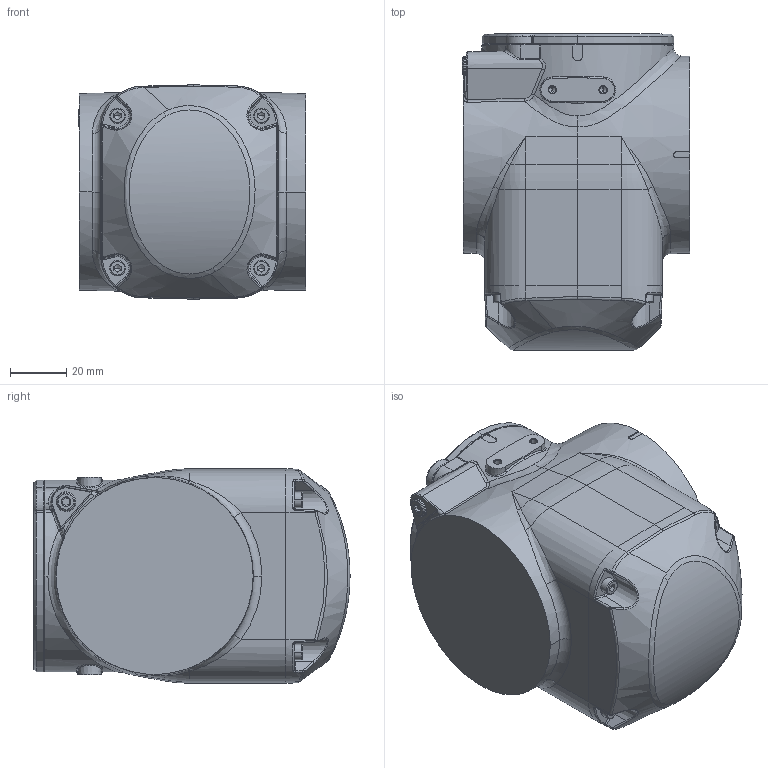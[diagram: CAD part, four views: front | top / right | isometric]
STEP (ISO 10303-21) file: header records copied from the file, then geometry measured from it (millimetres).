
FILE_DESCRIPTION (( 'STEP AP214' ), '1' );
FILE_NAME ('Link5.STEP', '2022-06-21T02:15:27', ( '' ), ( '' ), 'SwSTEP 2.0', 'SolidWorks 2020', '' );
FILE_SCHEMA (( 'AUTOMOTIVE_DESIGN' ));
Length unit declared in the file: millimetre
Products named in the file (1): Link5
Bounding box: 80.8 x 112.05 x 76 mm (x, y, z)
Volume: 502504.7 mm3; surface area: 43772.8 mm2
Topology: 1 solids, 1 shells, 551 faces, 1305 edges, 778 vertices
Faces by surface type: plane 194, bspline 112, cylinder 104, cone 85, torus 56
Entity records: 25042 total; most frequent: CARTESIAN_POINT 13128, ORIENTED_EDGE 2568, DIRECTION 2346, EDGE_CURVE 1284, AXIS2_PLACEMENT_3D 909, VERTEX_POINT 778, EDGE_LOOP 608, ADVANCED_FACE 551
